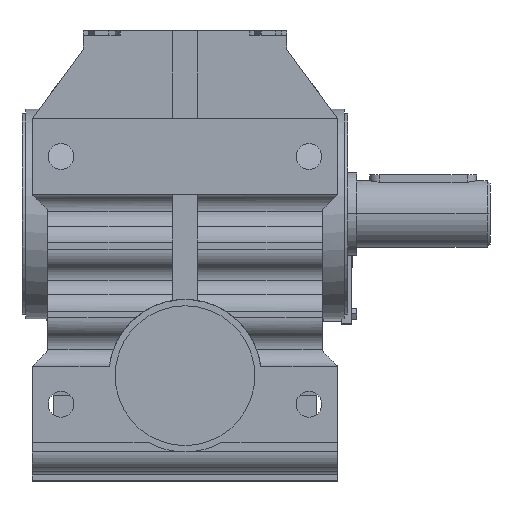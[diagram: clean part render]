
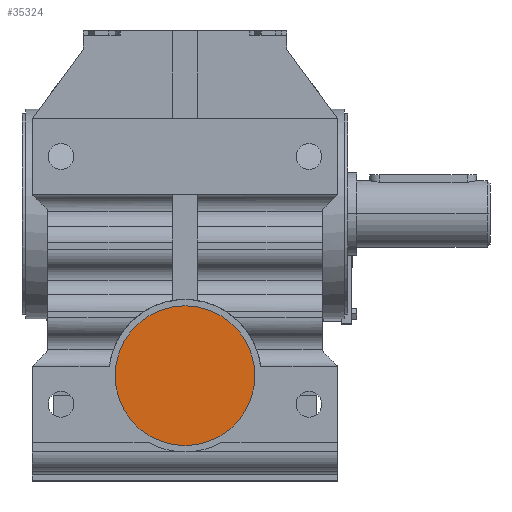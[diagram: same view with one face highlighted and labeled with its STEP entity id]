
A CAD part, top view. The second image highlights one B-rep face of the part: STEP entity #35324.
In plain terms, the highlighted planar face has unit normal (0, 0, 1).
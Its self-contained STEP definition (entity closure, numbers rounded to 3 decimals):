
#32628 = CYLINDRICAL_SURFACE('',#32629,36.667);
#32629 = AXIS2_PLACEMENT_3D('',#32630,#32631,#32632);
#32630 = CARTESIAN_POINT('',(0.,-63.,229.));
#32631 = DIRECTION('',(0.,0.,1.));
#32632 = DIRECTION('',(1.,0.,0.));
#32658 = CYLINDRICAL_SURFACE('',#32659,36.667);
#32659 = AXIS2_PLACEMENT_3D('',#32660,#32661,#32662);
#32660 = CARTESIAN_POINT('',(0.,-63.,229.));
#32661 = DIRECTION('',(0.,0.,1.));
#32662 = DIRECTION('',(1.,0.,0.));
#34588 = EDGE_CURVE('',#34589,#34591,#34593,.T.);
#34589 = VERTEX_POINT('',#34590);
#34590 = CARTESIAN_POINT('',(-36.667,-63.,229.));
#34591 = VERTEX_POINT('',#34592);
#34592 = CARTESIAN_POINT('',(36.667,-63.,229.));
#34593 = SURFACE_CURVE('',#34594,(#34599,#34605),.PCURVE_S1.);
#34594 = CIRCLE('',#34595,36.667);
#34595 = AXIS2_PLACEMENT_3D('',#34596,#34597,#34598);
#34596 = CARTESIAN_POINT('',(0.,-63.,229.));
#34597 = DIRECTION('',(0.,0.,1.));
#34598 = DIRECTION('',(1.,0.,0.));
#34599 = PCURVE('',#32658,#34600);
#34600 = DEFINITIONAL_REPRESENTATION('',(#34601),#34604);
#34601 = B_SPLINE_CURVE_WITH_KNOTS('',1,(#34602,#34603),.UNSPECIFIED.,
  .F.,.F.,(2,2),(3.142,6.283),.PIECEWISE_BEZIER_KNOTS.);
#34602 = CARTESIAN_POINT('',(3.142,0.));
#34603 = CARTESIAN_POINT('',(6.283,0.));
#34604 = ( GEOMETRIC_REPRESENTATION_CONTEXT(2) 
PARAMETRIC_REPRESENTATION_CONTEXT() REPRESENTATION_CONTEXT('2D SPACE',''
  ) );
#34605 = PCURVE('',#34606,#34611);
#34606 = PLANE('',#34607);
#34607 = AXIS2_PLACEMENT_3D('',#34608,#34609,#34610);
#34608 = CARTESIAN_POINT('',(0.,-63.,229.));
#34609 = DIRECTION('',(0.,0.,1.));
#34610 = DIRECTION('',(1.,0.,0.));
#34611 = DEFINITIONAL_REPRESENTATION('',(#34612),#34616);
#34612 = CIRCLE('',#34613,36.667);
#34613 = AXIS2_PLACEMENT_2D('',#34614,#34615);
#34614 = CARTESIAN_POINT('',(0.,0.));
#34615 = DIRECTION('',(1.,0.));
#34616 = ( GEOMETRIC_REPRESENTATION_CONTEXT(2) 
PARAMETRIC_REPRESENTATION_CONTEXT() REPRESENTATION_CONTEXT('2D SPACE',''
  ) );
#34663 = EDGE_CURVE('',#34591,#34589,#34664,.T.);
#34664 = SURFACE_CURVE('',#34665,(#34670,#34676),.PCURVE_S1.);
#34665 = CIRCLE('',#34666,36.667);
#34666 = AXIS2_PLACEMENT_3D('',#34667,#34668,#34669);
#34667 = CARTESIAN_POINT('',(0.,-63.,229.));
#34668 = DIRECTION('',(0.,0.,1.));
#34669 = DIRECTION('',(1.,0.,0.));
#34670 = PCURVE('',#32628,#34671);
#34671 = DEFINITIONAL_REPRESENTATION('',(#34672),#34675);
#34672 = B_SPLINE_CURVE_WITH_KNOTS('',1,(#34673,#34674),.UNSPECIFIED.,
  .F.,.F.,(2,2),(0.,3.142),.PIECEWISE_BEZIER_KNOTS.);
#34673 = CARTESIAN_POINT('',(0.,0.));
#34674 = CARTESIAN_POINT('',(3.142,0.));
#34675 = ( GEOMETRIC_REPRESENTATION_CONTEXT(2) 
PARAMETRIC_REPRESENTATION_CONTEXT() REPRESENTATION_CONTEXT('2D SPACE',''
  ) );
#34676 = PCURVE('',#34606,#34677);
#34677 = DEFINITIONAL_REPRESENTATION('',(#34678),#34682);
#34678 = CIRCLE('',#34679,36.667);
#34679 = AXIS2_PLACEMENT_2D('',#34680,#34681);
#34680 = CARTESIAN_POINT('',(0.,0.));
#34681 = DIRECTION('',(1.,0.));
#34682 = ( GEOMETRIC_REPRESENTATION_CONTEXT(2) 
PARAMETRIC_REPRESENTATION_CONTEXT() REPRESENTATION_CONTEXT('2D SPACE',''
  ) );
#35324 = ADVANCED_FACE('',(#35325),#34606,.T.);
#35325 = FACE_BOUND('',#35326,.T.);
#35326 = EDGE_LOOP('',(#35327,#35328));
#35327 = ORIENTED_EDGE('',*,*,#34663,.T.);
#35328 = ORIENTED_EDGE('',*,*,#34588,.T.);
